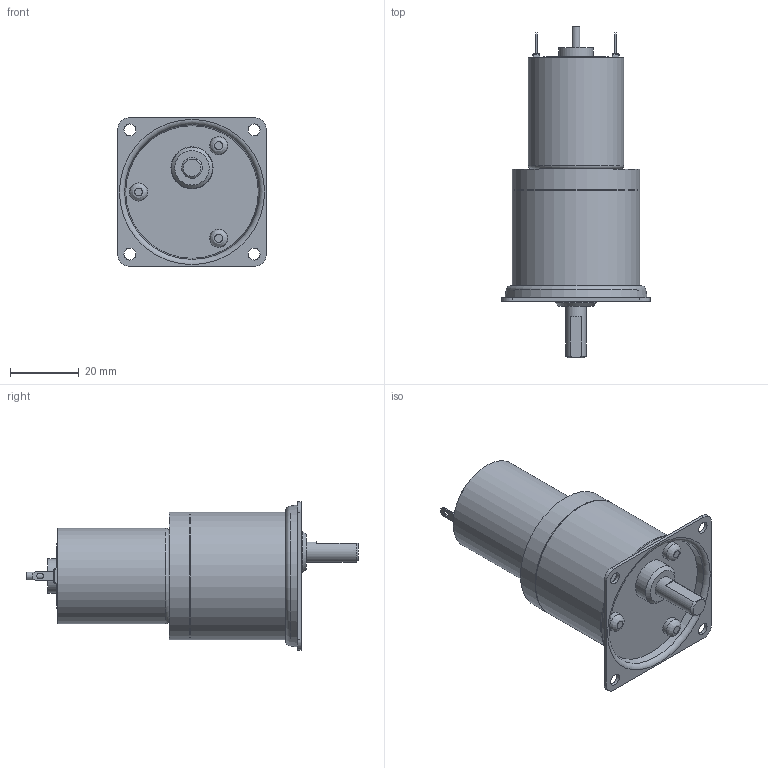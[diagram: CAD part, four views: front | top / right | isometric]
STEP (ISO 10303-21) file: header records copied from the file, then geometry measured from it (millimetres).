
FILE_DESCRIPTION((''),'2;1');
FILE_NAME('C:\Documents and Settings\SSEGAWA\デスクトップ\TP-2732D-PHM-6.STP','2013-07-01T13:56:52',('SSEGAWA'),(''),'Autodesk Inventor 2010','Autodesk Inventor 2010','');
FILE_SCHEMA(('CONFIG_CONTROL_DESIGN'));
Length unit declared in the file: millimetre
Products named in the file (5): tp_2732def_phm_6; phm_6; hm_6; □43; tp_2732d,e,f
Assembly tree (4 placements, depth 3):
  tp_2732def_phm_6
    phm_6
      hm_6
      □43
    tp_2732d,e,f
Bounding box: 43 x 96.3 x 43 mm (x, y, z)
Volume: 59135.5 mm3; surface area: 15724.5 mm2
Topology: 3 solids, 3 shells, 177 faces, 391 edges, 251 vertices
Faces by surface type: plane 96, cylinder 43, bspline 28, torus 6, cone 4
Full cylindrical faces by diameter (mm): 2 x2, 2.305 x2, 2.5 x5, 5.3 x3, 6 x1, 9 x2, 10 x2, 12 x1, 12.2 x1, 19 x1, 26.7 x1, 27.7 x1, 36.6 x1, 37 x2
Entity records: 4939 total; most frequent: CARTESIAN_POINT 1198, DIRECTION 765, ORIENTED_EDGE 636, EDGE_CURVE 318, AXIS2_PLACEMENT_3D 291, EDGE_LOOP 275, VERTEX_POINT 231, VECTOR 183
